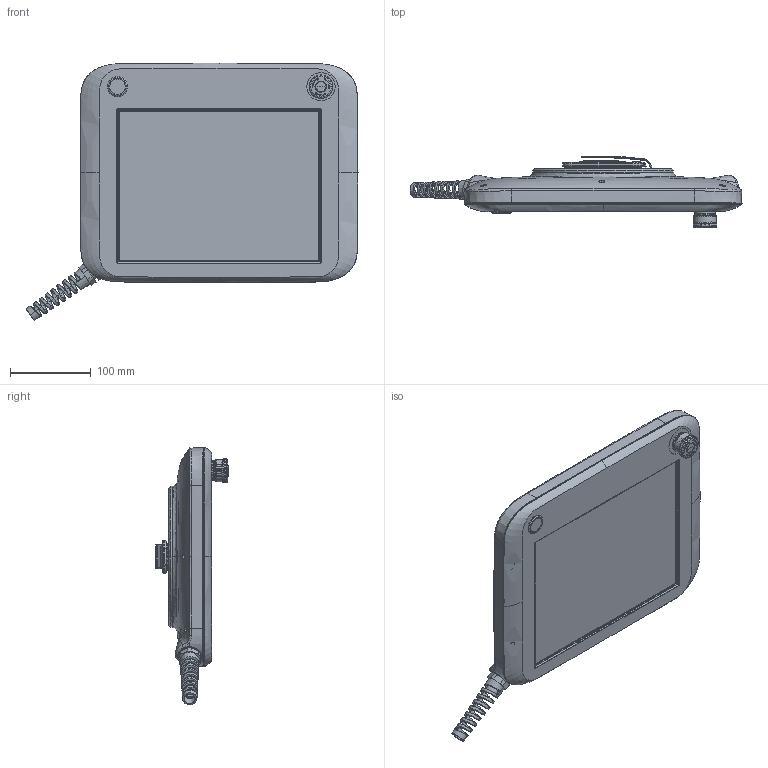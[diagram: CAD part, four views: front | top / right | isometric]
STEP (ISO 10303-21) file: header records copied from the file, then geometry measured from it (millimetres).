
FILE_DESCRIPTION(/* description */ (''),/* implementation_level */ '2;1');
FILE_NAME(/* name */ 'HCR_TP.stp',/* time_stamp */ '2017-12-09T15:06:27+09:00',/* author */ (''),/* organization */ (''),/* preprocessor_version */ 'ST-DEVELOPER v11',/* originating_system */ 'SIEMENS PLM Software NX 7.5',/* authorisation */ '');
FILE_SCHEMA (('CONFIG_CONTROL_DESIGN'));
Products named in the file (34): 8_1_5; 8_1_4; 8_1_3; 8_1_2; 8_1_1; BRKT_LCD_1; _____3_-2__ASM; 10_1; 9_1; 6_1; 5_1; 4_1; 3_1; 2_1; 1_1; TOUCH_PANEL_1; CONNECTOR_RUBBER_L; USB_COVER_DESIGN; USB_COVER; BUCKLE_WIRE; CABLE_CLAMP; BUCKLE; BACK_CASE_R1; ROTATION_BRACKET; SWITCH_EMERGENCY_1; USB_CONNECTOR_ASM; BOARD_AD_ASM_1_ASM; FRONT_CASE_R; HINGE_ASSY_3ND_ASM; 8_1_ASM; POWER_BUTTON_ASM_1_ASM; BRKT_LCD_ASM_1_ASM; LCD_ASM_1_ASM; HTW_TP_asm_R1_161202_stp
Assembly tree (33 placements, depth 4):
  HTW_TP_asm_R1_161202_stp
    FRONT_CASE_R
    LCD_ASM_1_ASM
      TOUCH_PANEL_1
      BRKT_LCD_ASM_1_ASM
        BRKT_LCD_1
    BOARD_AD_ASM_1_ASM
    USB_CONNECTOR_ASM
    POWER_BUTTON_ASM_1_ASM
      1_1
      2_1
      3_1
      4_1
      5_1
      6_1
      8_1_ASM
        8_1_1
        8_1_2
        8_1_3
        8_1_4
        8_1_5
      9_1
      10_1
    SWITCH_EMERGENCY_1
    ROTATION_BRACKET
    BACK_CASE_R1
    HINGE_ASSY_3ND_ASM
      _____3_-2__ASM
    BUCKLE
    CABLE_CLAMP
    BUCKLE_WIRE
    USB_COVER
    USB_COVER_DESIGN
    CONNECTOR_RUBBER_L
Bounding box: 410.39 x 89.11 x 318.34 mm (x, y, z)
Volume: 746191.8 mm3; surface area: 748861.8 mm2
Topology: 25 solids, 25 shells, 4550 faces, 12398 edges, 7994 vertices
Faces by surface type: plane 2031, cylinder 1101, bspline 495, cone 461, torus 401, sphere 37, extrusion 16, revolution 8
Entity records: 232157 total; most frequent: CARTESIAN_POINT 117384, ORIENTED_EDGE 24768, DIRECTION 21602, EDGE_CURVE 12384, AXIS2_PLACEMENT_3D 8015, VERTEX_POINT 7994, VECTOR 5564, LINE 5548
